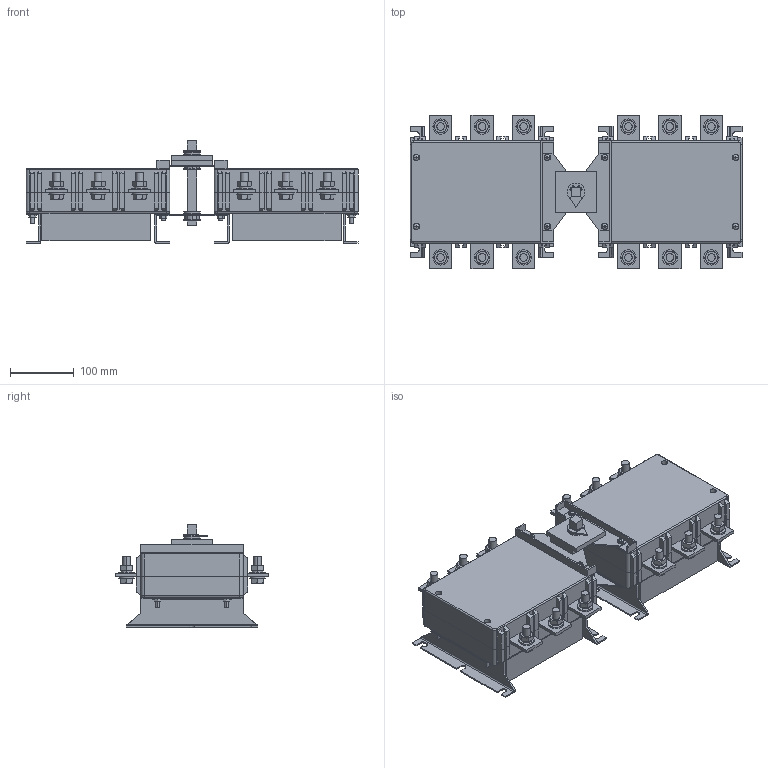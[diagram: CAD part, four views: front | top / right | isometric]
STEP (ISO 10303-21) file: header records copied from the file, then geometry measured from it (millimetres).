
FILE_DESCRIPTION((''),'2;1');
FILE_NAME('400-3S_ASM','2021-05-07T',('wangpeng'),(''),'PRO/ENGINEER BY PARAMETRIC TECHNOLOGY CORPORATION, 2009460','PRO/ENGINEER BY PARAMETRIC TECHNOLOGY CORPORATION, 2009460','');
FILE_SCHEMA(('AUTOMOTIVE_DESIGN { 1 0 10303 214 1 1 1 1 }'));
Length unit declared in the file: millimetre
Products named in the file (21): SB-400-3S; ZB-400-3S; CT-400-3S; XB-400-3S; YB-400-3S; ZCB-400-3S; DB-400-3S; PDQ12; LSM12; TDQ12; LMM12; PDQ6; 00LSM6; 0LSM6; LMM6; ZSJNH40; FKSNH40; ZSJTNH40; ZZ-400-3S; DQM8; 400-3S_ASM
Assembly tree (128 placements, depth 2):
  400-3S_ASM
    SB-400-3S  x2
    ZB-400-3S  x2
    CT-400-3S  x6
    XB-400-3S  x2
    YB-400-3S  x2
    ZCB-400-3S  x2
    DB-400-3S  x4
    PDQ12  x24
    LSM12  x12
    TDQ12  x12
    LMM12  x12
    PDQ6  x16
    00LSM6  x4
    0LSM6  x12
    LMM6  x8
    ZSJNH40
    FKSNH40  x3
    ZSJTNH40
    ZZ-400-3S
    DQM8  x2
Bounding box: 520 x 240 x 160.5 mm (x, y, z)
Volume: 7906932.3 mm3; surface area: 1046897.7 mm2
Topology: 128 solids, 128 shells, 2476 faces, 6101 edges, 3940 vertices
Faces by surface type: plane 1425, cylinder 659, cone 344, sphere 32, torus 16
Entity records: 22255 total; most frequent: CARTESIAN_POINT 4087, DIRECTION 3483, ORIENTED_EDGE 3264, EDGE_CURVE 1632, VECTOR 1173, LINE 1173, AXIS2_PLACEMENT_3D 1155, VERTEX_POINT 1071
